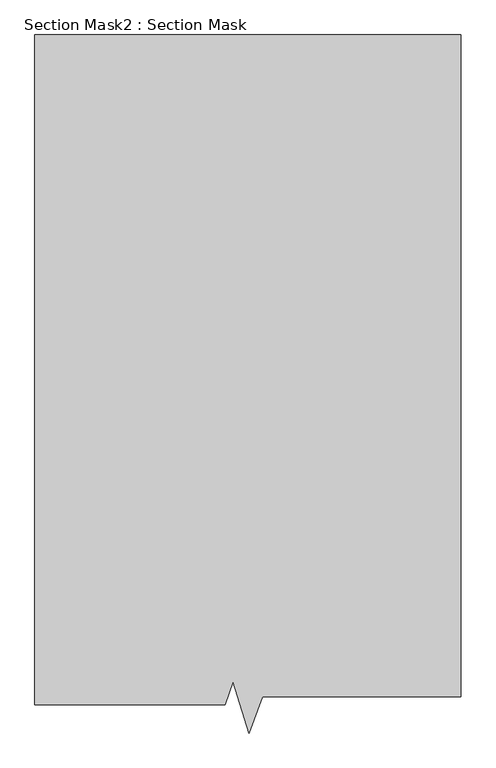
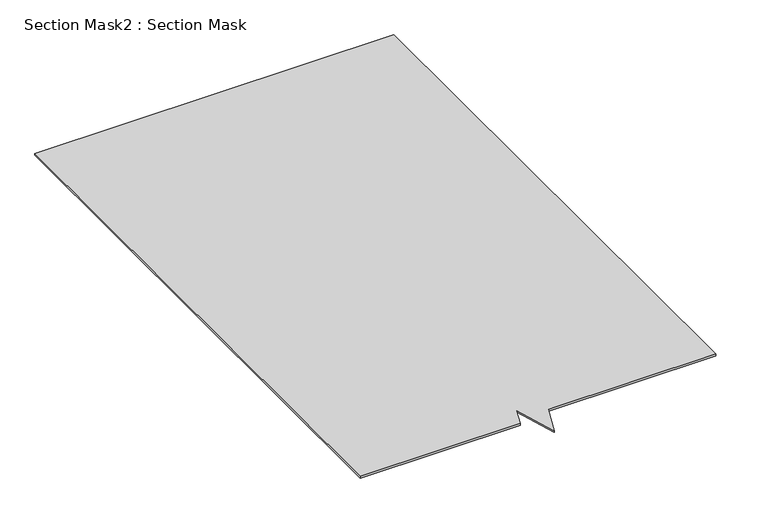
"""IFC4 building model written with IfcOpenShell, lengths in millimetres: proxy geometry, Section Mask2 : Section Mask."""

import ifcopenshell
import ifcopenshell.guid

model = None  # the IFC model being written
_history = None  # IfcOwnerHistory: only IFC2X3 demands one
_inside = {}  # id of a spatial element -> (the spatial element, [elements in it])
_under = {}  # id of a project, library or spatial element -> (it, [spatial elements below it])
_declared = {}  # id of a project -> (the project, [libraries it declares])
_typed = {}  # id of a type object -> (the type object, [elements of that type])
_made_of = {}  # id of a material, layer set ... -> (it, [elements and type objects made of it])


def new_model(schema):
    """Start an empty IFC model of exactly this schema.

    Asked for "IFC4X3", IfcOpenShell would pick the latest addendum, in which some entities
    have other attributes; the version numbers below select the first issue.
    IFC2X3 requires an IfcOwnerHistory on every rooted entity: one is made here for all.
    """
    global model, _history
    if schema == "IFC4X3":
        model = ifcopenshell.file(schema_version=(4, 3, 0, 0))
    else:
        model = ifcopenshell.file(schema=schema)
    _inside.clear()
    _under.clear()
    _declared.clear()
    _typed.clear()
    _made_of.clear()
    _history = None
    if model.schema == "IFC2X3":
        org = make("IfcOrganization", Name="unknown")
        user = make(
            "IfcPersonAndOrganization",
            ThePerson=make("IfcPerson", FamilyName="unknown"),
            TheOrganization=org,
        )
        app = make(
            "IfcApplication",
            ApplicationDeveloper=org,
            Version="unknown",
            ApplicationFullName="unknown",
            ApplicationIdentifier="unknown",
        )
        _history = make(
            "IfcOwnerHistory",
            OwningUser=user,
            OwningApplication=app,
            ChangeAction="ADDED",
            CreationDate=0,
        )
    return model


def make(cls, **values):
    """One entity of the class cls with the attributes given. An attribute that is None is left unset."""
    return model.create_entity(
        cls, **{name: value for name, value in values.items() if value is not None}
    )


def rooted(cls, **values):
    """An entity with a GlobalId (a new one), such as an element, a storey or a relation."""
    return make(cls, GlobalId=ifcopenshell.guid.new(), OwnerHistory=_history, **values)


def si_unit(unit_type, name, prefix=None):
    """IfcSIUnit, for example si_unit("LENGTHUNIT", "METRE", prefix="MILLI")."""
    return make("IfcSIUnit", UnitType=unit_type, Prefix=prefix, Name=name)


def assignment(units):
    """IfcUnitAssignment: the units of a project."""
    return None if units is None else make("IfcUnitAssignment", Units=units)


def point(xyz):
    """IfcCartesianPoint."""
    return None if xyz is None else make("IfcCartesianPoint", Coordinates=xyz)


def direction(xyz):
    """IfcDirection."""
    return None if xyz is None else make("IfcDirection", DirectionRatios=xyz)


def frame(location, z_axis=None, x_axis=None):
    """IfcAxis2Placement3D, a coordinate frame: its origin and axes. An axis left out is left unset."""
    return make(
        "IfcAxis2Placement3D",
        Location=point(location),
        Axis=direction(z_axis),
        RefDirection=direction(x_axis),
    )


def origin():
    """The frame at (0, 0, 0) with its axes left unset."""
    return frame((0.0, 0.0, 0.0))


def place(relative_to, where):
    """IfcLocalPlacement: puts the frame where relative to a parent placement (None: the world)."""
    return make(
        "IfcLocalPlacement", PlacementRelTo=relative_to, RelativePlacement=where
    )


def context(
    kind, dimensions, precision=None, world=None, true_north=None, identifier=None
):
    """IfcGeometricRepresentationContext, for example the 3D "Model" context."""
    return make(
        "IfcGeometricRepresentationContext",
        ContextIdentifier=identifier,
        ContextType=kind,
        CoordinateSpaceDimension=dimensions,
        Precision=precision,
        WorldCoordinateSystem=world,
        TrueNorth=true_north,
    )


def project(units=None, contexts=None):
    """IfcProject with its units and contexts."""
    return rooted(
        "IfcProject",
        Name="project",
        RepresentationContexts=contexts,
        UnitsInContext=assignment(units),
    )


def spatial(cls, under=None, at=None, **own):
    """A site, building, storey or space (cls), placed at a placement, below another one or the project."""
    s = rooted(cls, ObjectPlacement=at, **own)
    if under is not None:
        _under.setdefault(under.id(), (under, []))[1].append(s)
    return s


def polyline(points):
    """IfcPolyline through the points."""
    return make("IfcPolyline", Points=[point(p) for p in points])


def outline(outer, holes=None, kind="AREA"):
    """IfcArbitraryClosedProfileDef: a profile drawn as a closed curve; with holes, ...WithVoids."""
    if holes is None:
        return make("IfcArbitraryClosedProfileDef", ProfileType=kind, OuterCurve=outer)
    return make(
        "IfcArbitraryProfileDefWithVoids",
        ProfileType=kind,
        OuterCurve=outer,
        InnerCurves=holes,
    )


def extrude(swept, where, along, depth):
    """IfcExtrudedAreaSolid: the profile swept, set in the frame where, extruded along a direction by depth."""
    return make(
        "IfcExtrudedAreaSolid",
        SweptArea=swept,
        Position=where,
        ExtrudedDirection=direction(along),
        Depth=depth,
    )


def shape(context_of_items, identifier, shape_type, items):
    """IfcShapeRepresentation: the items that make up one representation, for example the "Body"."""
    return make(
        "IfcShapeRepresentation",
        ContextOfItems=context_of_items,
        RepresentationIdentifier=identifier,
        RepresentationType=shape_type,
        Items=items,
    )


def source(mapping_origin, context_of_items, identifier, shape_type, items):
    """IfcRepresentationMap: a shape defined once, which mapped items show again and again."""
    return make(
        "IfcRepresentationMap",
        MappingOrigin=mapping_origin,
        MappedRepresentation=shape(context_of_items, identifier, shape_type, items),
    )


def transform(
    local_origin,
    x_axis=None,
    y_axis=None,
    z_axis=None,
    scale=None,
    scale2=None,
    scale3=None,
    uniform=True,
):
    """IfcCartesianTransformationOperator3D, or its non-uniform kind. x_axis, y_axis, z_axis: its Axis1, 2, 3."""
    if uniform:
        return make(
            "IfcCartesianTransformationOperator3D",
            Axis1=direction(x_axis),
            Axis2=direction(y_axis),
            LocalOrigin=point(local_origin),
            Scale=scale,
            Axis3=direction(z_axis),
        )
    return make(
        "IfcCartesianTransformationOperator3DnonUniform",
        Axis1=direction(x_axis),
        Axis2=direction(y_axis),
        LocalOrigin=point(local_origin),
        Scale=scale,
        Axis3=direction(z_axis),
        Scale2=scale2,
        Scale3=scale3,
    )


def mapped(mapping_source, mapping_target):
    """IfcMappedItem: shows the shape of a source again, moved by a transform."""
    return make(
        "IfcMappedItem", MappingSource=mapping_source, MappingTarget=mapping_target
    )


def made_of(thing, what):
    """Note that an element or type object is made of a material, layer set ...; save() writes the relation."""
    if what is not None:
        _made_of.setdefault(what.id(), (what, []))[1].append(thing)
    return thing


def element(
    cls,
    number,
    at=None,
    inside=None,
    cuts=None,
    type_object=None,
    material=None,
    context=None,
    identifier="Body",
    shape_type=None,
    held_by="IfcProductDefinitionShape",
    body=None,
    shapes=None,
    **own,
):
    """One element of the class cls, such as IfcWall. Its Tag is "e" and its number.

    at: its placement. inside: the storey or other place that contains it. cuts: it is an
    opening in that element (IfcRelVoidsElement). A single representation is given by context,
    identifier, shape_type and body (its items); several are given by shapes. held_by: the class
    of the entity that holds the representations. save() writes the other relations.
    """
    e = rooted(cls, Tag="e%d" % number, ObjectPlacement=at, **own)
    if body is not None:
        shapes = [shape(context, identifier, shape_type, body)]
    if shapes is not None:
        e.Representation = make(held_by, Representations=shapes)
    if inside is not None:
        _inside.setdefault(inside.id(), (inside, []))[1].append(e)
    if cuts is not None:
        rooted(
            "IfcRelVoidsElement", RelatingBuildingElement=cuts, RelatedOpeningElement=e
        )
    if type_object is not None:
        _typed.setdefault(type_object.id(), (type_object, []))[1].append(e)
    return made_of(e, material)


def aggregate(whole, parts):
    """IfcRelAggregates: a whole, such as a stair, and the parts it consists of."""
    return rooted("IfcRelAggregates", RelatingObject=whole, RelatedObjects=parts)


def save(model, path):
    """Write the relations noted so far, then the file.

    IfcRelAggregates (storeys below a building ...), IfcRelContainedInSpatialStructure (elements
    in a storey), IfcRelDefinesByType, IfcRelAssociatesMaterial and IfcRelDeclares: one each for
    every whole, place, type object, material and project.
    """
    for whole, parts in _under.values():
        aggregate(whole, parts)
    for where, things in _inside.values():
        rooted(
            "IfcRelContainedInSpatialStructure",
            RelatedElements=things,
            RelatingStructure=where,
        )
    for kind, things in _typed.values():
        rooted("IfcRelDefinesByType", RelatedObjects=things, RelatingType=kind)
    for what, things in _made_of.values():
        rooted("IfcRelAssociatesMaterial", RelatedObjects=things, RelatingMaterial=what)
    for by, libraries in _declared.values():
        rooted("IfcRelDeclares", RelatingContext=by, RelatedDefinitions=libraries)
    model.write(path)


def section_mask2_section_mask_ae3e71fc(model_context):
    return source(origin(), model_context, "Body", "SweptSolid", [
        extrude(outline(polyline([(8429.464325, 631.273934), (7908.6046746, 631.273934), (7908.6046746, 2465.4614947), (9077.0447008, 2465.4614947), (9077.0447008, 652.1224056), (8532.0982256, 652.1224056), (8495.4813689, 552.9595639), (8452.4812645, 693.6065681), (8429.464325, 631.273934)])), frame((0.0, 0.0, 45.0273345), z_axis=(0.0, 0.0, 1.0), x_axis=(1.0, 0.0, 0.0)), (0.0, 0.0, 1.0), 5.6926241),
    ])


if __name__ == "__main__":
    model = new_model("IFC4")
    model_context = context("Model", 3, world=origin())
    ifc_project = project(units=[si_unit("LENGTHUNIT", "METRE", prefix="MILLI")], contexts=[model_context])
    site = spatial("IfcSite", under=ifc_project)
    building = spatial("IfcBuilding", under=site)
    placement = place(None, origin())
    section_mask2_section_mask_shape = section_mask2_section_mask_ae3e71fc(model_context)
    element("IfcBuildingElementProxy", 1, Name="Section Mask2 : Section Mask", ObjectType="Section Mask2 : Section Mask", at=placement, inside=building, context=model_context, shape_type="MappedRepresentation", body=[
        mapped(section_mask2_section_mask_shape, transform((0.0, 0.0, 0.0), x_axis=(1.0, 0.0, 0.0), y_axis=(0.0, 1.0, 0.0), z_axis=(0.0, 0.0, 1.0))),
    ])
    save(model, "model.ifc")
